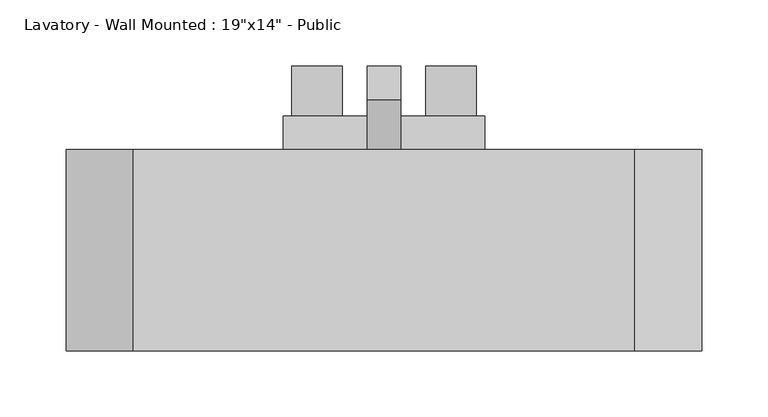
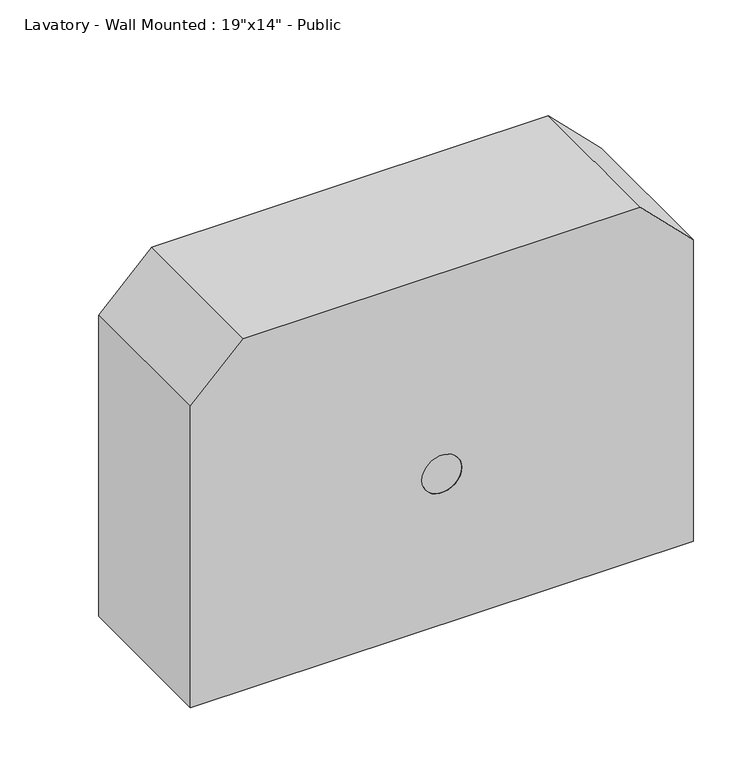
"""IFC4 building model written with IfcOpenShell, lengths in millimetres: flow terminal geometry."""

from ifc_helpers import new_model, si_unit, point, frame, frame_2d, origin, place, context, project, spatial, polyline, circle_curve, trimmed, segment, composite_curve, outline, extrude, source, transform, mapped, element, save
from ifc_brep_helpers import plane_surface, revolved_surface, advanced_brep


def flow_terminal_718ab44a(model_context):
    return source(origin(), model_context, "Body", "SolidModel", [
        advanced_brep(
        [(-240.8, -152.4, 305.2), (-240.8, -152.4, 0.0), (240.8, -152.4, 0.0), (240.8, -152.4, 305.2), (190.0, -152.4, 356.0), (-190.0, -152.4, 356.0), (19.05, -152.4, 152.4), (-19.05, -152.4, 152.4), (-240.8, 0.0, 305.2), (-190.0, 0.0, 356.0), (190.0, 0.0, 356.0), (240.8, 0.0, 305.2), (240.8, 0.0, 0.0), (-240.8, 0.0, 0.0), (168.957951, 0.0, 305.2), (-168.957951, 0.0, 305.2), (-190.0, 0.0, 284.157951), (-190.0, 0.0, 114.3), (190.0, 0.0, 114.3), (190.0, 0.0, 284.157951), (19.05, -127.0, 152.4), (-19.05, -127.0, 152.4), (168.957951, -127.0, 305.2), (190.0, -127.0, 284.157951), (190.0, -127.0, 114.3), (-190.0, -127.0, 114.3), (-190.0, -127.0, 284.157951), (-168.957951, -127.0, 305.2)],
        [
            (0, 1),
            (1, 2),
            (2, 3),
            (3, 4),
            (4, 5),
            (5, 0),
            (6, 7, circle_curve(frame((0.0, -152.4, 152.4), z_axis=(0.0, 1.0, 0.0), x_axis=(1.0, 0.0, 0.0)), 19.05)),
            (7, 6, circle_curve(frame((0.0, -152.4, 152.4), z_axis=(0.0, 1.0, 0.0), x_axis=(1.0, 0.0, 0.0)), 19.05)),
            (8, 9),
            (9, 10),
            (10, 11),
            (11, 12),
            (12, 13),
            (13, 8),
            (14, 15),
            (15, 16),
            (16, 17),
            (17, 18),
            (18, 19),
            (19, 14),
            (0, 8),
            (13, 1),
            (12, 2),
            (11, 3),
            (10, 4),
            (9, 5),
            (6, 20),
            (20, 21, circle_curve(frame((0.0, -127.0, 152.4), z_axis=(0.0, 1.0, 0.0), x_axis=(1.0, 0.0, 0.0)), 19.05)),
            (21, 7),
            (21, 20, circle_curve(frame((0.0, -127.0, 152.4), z_axis=(0.0, 1.0, 0.0), x_axis=(1.0, 0.0, 0.0)), 19.05)),
            (22, 23),
            (23, 24),
            (24, 25),
            (25, 26),
            (26, 27),
            (27, 22),
            (27, 15),
            (14, 22),
            (26, 16),
            (25, 17),
            (24, 18),
            (23, 19),
        ],
        [
            plane_surface(frame((-240.8, -152.4, 305.2), z_axis=(0.0, -1.0, 0.0), x_axis=(0.0, 0.0, -1.0))),
            plane_surface(frame((-240.8, 0.0, 305.2), z_axis=(0.0, 1.0, 0.0), x_axis=(0.0, 0.0, 1.0))),
            plane_surface(frame((-240.8, -152.4, 305.2), z_axis=(-1.0, 0.0, 0.0), x_axis=(0.0, 1.0, 0.0))),
            plane_surface(frame((-240.8, -152.4, 0.0), z_axis=(0.0, 0.0, -1.0), x_axis=(0.0, 1.0, 0.0))),
            plane_surface(frame((240.8, -152.4, 0.0), z_axis=(1.0, 0.0, 0.0), x_axis=(0.0, 1.0, 0.0))),
            plane_surface(frame((240.8, -152.4, 305.2), z_axis=(0.7071067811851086, 0.0, 0.7071067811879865), x_axis=(0.0, 1.0, 0.0))),
            plane_surface(frame((190.0, -152.4, 356.0), z_axis=(0.0, 0.0, 1.0), x_axis=(0.0, 1.0, 0.0))),
            plane_surface(frame((-190.0, -152.4, 356.0), z_axis=(-0.7071067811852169, 0.0, 0.7071067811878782), x_axis=(0.0, 1.0, 0.0))),
            revolved_surface(polyline([(19.05, -152.4, 152.4), (19.05, -127.0, 152.4)]), (0.0, -127.0, 152.4), (0.0, -1.0, 0.0)),
            plane_surface(frame((-168.957951, -127.0, 305.2), z_axis=(0.0, 1.0, 0.0), x_axis=(-1.0, 0.0, 0.0))),
            plane_surface(frame((168.957951, -127.0, 305.2), z_axis=(0.0, 0.0, -1.0), x_axis=(0.0, 1.0, 0.0))),
            plane_surface(frame((-168.957951, -127.0, 305.2), z_axis=(0.7071067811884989, 0.0, -0.7071067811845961), x_axis=(0.0, 1.0, 0.0))),
            plane_surface(frame((-190.0, -127.0, 284.157951), z_axis=(1.0, 0.0, 0.0), x_axis=(0.0, 1.0, 0.0))),
            plane_surface(frame((-190.0, -127.0, 114.3), z_axis=(0.0, 0.0, 1.0), x_axis=(0.0, 1.0, 0.0))),
            plane_surface(frame((190.0, -127.0, 114.3), z_axis=(-1.0, 0.0, 0.0), x_axis=(0.0, 1.0, 0.0))),
            plane_surface(frame((190.0, -127.0, 284.157951), z_axis=(-0.7071067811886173, 0.0, -0.7071067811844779), x_axis=(0.0, 1.0, 0.0))),
        ],
        [
            (0, [[1, 2, 3, 4, 5, 6], [7, 8]]),
            (1, [[9, 10, 11, 12, 13, 14], [15, 16, 17, 18, 19, 20]]),
            (2, [[-1, 21, -14, 22]]),
            (3, [[-2, -22, -13, 23]]),
            (4, [[-3, -23, -12, 24]]),
            (5, [[-4, -24, -11, 25]]),
            (6, [[-5, -25, -10, 26]]),
            (7, [[-6, -26, -9, -21]]),
            (8, [[27, 28, 29, -7]]),
            (8, [[-27, -8, -29, 30]]),
            (9, [[31, 32, 33, 34, 35, 36], [-28, -30]]),
            (10, [[-36, 37, -15, 38]]),
            (11, [[-35, 39, -16, -37]]),
            (12, [[-34, 40, -17, -39]]),
            (13, [[-33, 41, -18, -40]]),
            (14, [[-32, 42, -19, -41]]),
            (15, [[-31, -38, -20, -42]]),
        ],
    ),
        extrude(outline(composite_curve([segment(trimmed(circle_curve(frame_2d((152.4, 0.0)), 19.05), [point((152.4, -19.05))], [point((152.4, 19.05))], False, "CARTESIAN"), True, "CONTINUOUS"), segment(trimmed(circle_curve(frame_2d((152.4, 0.0)), 19.05), [point((152.4, 19.05))], [point((152.4, -19.05))], False, "CARTESIAN"), True, "CONTINUOUS")], self_intersect=False)), frame((0.0, -152.4, 0.0), z_axis=(0.0, 1.0, 0.0), x_axis=(0.0, 0.0, 1.0)), (0.0, 0.0, 1.0), 25.4),
        extrude(outline(polyline([(76.2, 0.0), (-76.2, 0.0), (-76.2, 25.4), (76.2, 25.4), (76.2, 0.0)])), frame((0.0, 0.0, 28.575), z_axis=(0.0, 0.0, 1.0), x_axis=(1.0, 0.0, 0.0)), (0.0, 0.0, 1.0), 50.8),
        extrude(outline(composite_curve([segment(trimmed(circle_curve(frame_2d((53.975, 50.8)), 19.05), [point((53.975, 31.75))], [point((53.975, 69.85))], False, "CARTESIAN"), True, "CONTINUOUS"), segment(trimmed(circle_curve(frame_2d((53.975, 50.8)), 19.05), [point((53.975, 69.85))], [point((53.975, 31.75))], False, "CARTESIAN"), True, "CONTINUOUS")], self_intersect=False)), frame((0.0, 25.4, 0.0), z_axis=(0.0, 1.0, 0.0), x_axis=(0.0, 0.0, 1.0)), (0.0, 0.0, 1.0), 38.1),
        extrude(outline(polyline([(25.4, 79.375), (0.0, 79.375), (38.1, 167.363181), (63.5, 167.363181), (25.4, 79.375)])), frame((-12.7, 0.0, 0.0), z_axis=(1.0, 0.0, 0.0), x_axis=(0.0, 1.0, 0.0)), (0.0, 0.0, 1.0), 25.4),
        extrude(outline(composite_curve([segment(trimmed(circle_curve(frame_2d((53.975, -50.8)), 19.05), [point((53.975, -69.85))], [point((53.975, -31.75))], False, "CARTESIAN"), True, "CONTINUOUS"), segment(trimmed(circle_curve(frame_2d((53.975, -50.8)), 19.05), [point((53.975, -31.75))], [point((53.975, -69.85))], False, "CARTESIAN"), True, "CONTINUOUS")], self_intersect=False)), frame((0.0, 25.4, 0.0), z_axis=(0.0, 1.0, 0.0), x_axis=(0.0, 0.0, 1.0)), (0.0, 0.0, 1.0), 38.1),
    ])


if __name__ == "__main__":
    model = new_model("IFC4")
    model_context = context("Model", 3, world=origin())
    ifc_project = project(units=[si_unit("LENGTHUNIT", "METRE", prefix="MILLI")], contexts=[model_context])
    site = spatial("IfcSite", under=ifc_project)
    building = spatial("IfcBuilding", under=site)
    placement = place(None, origin())
    flow_terminal_shape = flow_terminal_718ab44a(model_context)
    element("IfcFlowTerminal", 1, ObjectType="Lavatory - Wall Mounted : 19\"x14\" - Public", at=placement, inside=building, context=model_context, shape_type="MappedRepresentation", body=[
        mapped(flow_terminal_shape, transform((0.0, 0.0, 0.0), x_axis=(1.0, 0.0, 0.0), y_axis=(0.0, 1.0, 0.0), z_axis=(0.0, 0.0, 1.0))),
    ])
    save(model, "model.ifc")
